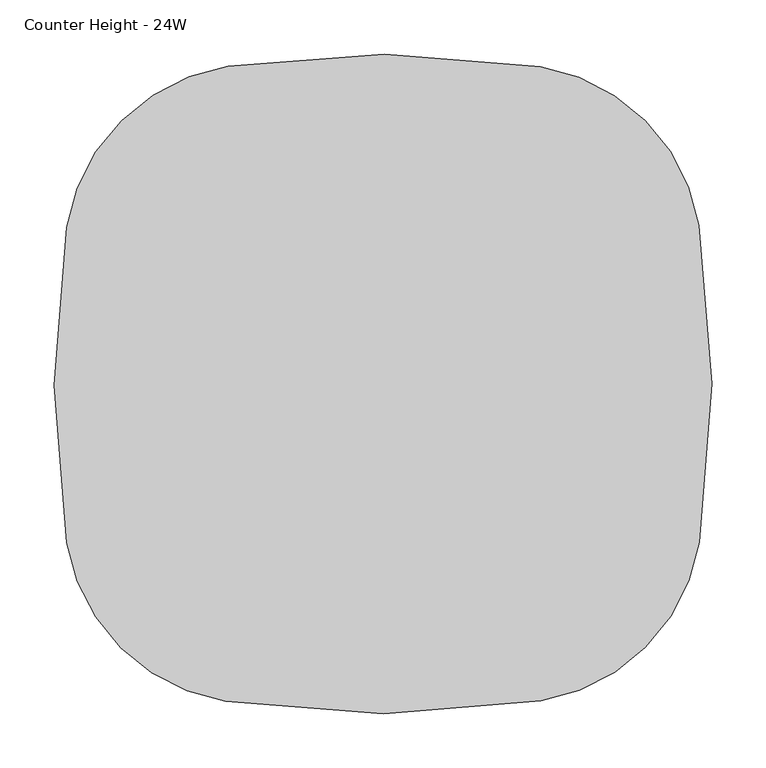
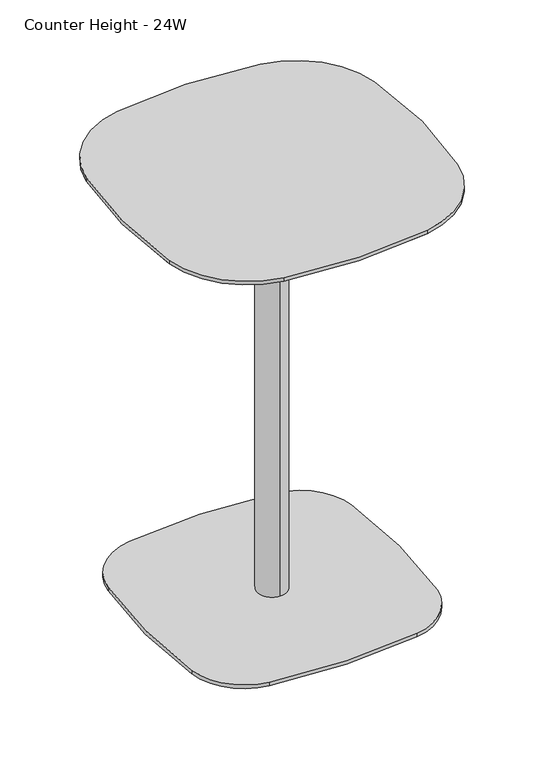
"""IFC4 building model written with IfcOpenShell, lengths in millimetres: furniture geometry, Steelcase Coalesse - Enea Lottus - Table - Cafe : Counter Height - 24W."""

import ifcopenshell
import ifcopenshell.guid

model = None  # the IFC model being written
_history = None  # IfcOwnerHistory: only IFC2X3 demands one
_inside = {}  # id of a spatial element -> (the spatial element, [elements in it])
_under = {}  # id of a project, library or spatial element -> (it, [spatial elements below it])
_declared = {}  # id of a project -> (the project, [libraries it declares])
_typed = {}  # id of a type object -> (the type object, [elements of that type])
_made_of = {}  # id of a material, layer set ... -> (it, [elements and type objects made of it])


def new_model(schema):
    """Start an empty IFC model of exactly this schema.

    Asked for "IFC4X3", IfcOpenShell would pick the latest addendum, in which some entities
    have other attributes; the version numbers below select the first issue.
    IFC2X3 requires an IfcOwnerHistory on every rooted entity: one is made here for all.
    """
    global model, _history
    if schema == "IFC4X3":
        model = ifcopenshell.file(schema_version=(4, 3, 0, 0))
    else:
        model = ifcopenshell.file(schema=schema)
    _inside.clear()
    _under.clear()
    _declared.clear()
    _typed.clear()
    _made_of.clear()
    _history = None
    if model.schema == "IFC2X3":
        org = make("IfcOrganization", Name="unknown")
        user = make(
            "IfcPersonAndOrganization",
            ThePerson=make("IfcPerson", FamilyName="unknown"),
            TheOrganization=org,
        )
        app = make(
            "IfcApplication",
            ApplicationDeveloper=org,
            Version="unknown",
            ApplicationFullName="unknown",
            ApplicationIdentifier="unknown",
        )
        _history = make(
            "IfcOwnerHistory",
            OwningUser=user,
            OwningApplication=app,
            ChangeAction="ADDED",
            CreationDate=0,
        )
    return model


def make(cls, **values):
    """One entity of the class cls with the attributes given. An attribute that is None is left unset."""
    return model.create_entity(
        cls, **{name: value for name, value in values.items() if value is not None}
    )


def rooted(cls, **values):
    """An entity with a GlobalId (a new one), such as an element, a storey or a relation."""
    return make(cls, GlobalId=ifcopenshell.guid.new(), OwnerHistory=_history, **values)


def si_unit(unit_type, name, prefix=None):
    """IfcSIUnit, for example si_unit("LENGTHUNIT", "METRE", prefix="MILLI")."""
    return make("IfcSIUnit", UnitType=unit_type, Prefix=prefix, Name=name)


def assignment(units):
    """IfcUnitAssignment: the units of a project."""
    return None if units is None else make("IfcUnitAssignment", Units=units)


def point(xyz):
    """IfcCartesianPoint."""
    return None if xyz is None else make("IfcCartesianPoint", Coordinates=xyz)


def direction(xyz):
    """IfcDirection."""
    return None if xyz is None else make("IfcDirection", DirectionRatios=xyz)


def frame(location, z_axis=None, x_axis=None):
    """IfcAxis2Placement3D, a coordinate frame: its origin and axes. An axis left out is left unset."""
    return make(
        "IfcAxis2Placement3D",
        Location=point(location),
        Axis=direction(z_axis),
        RefDirection=direction(x_axis),
    )


def frame_2d(location, x_axis=None):
    """IfcAxis2Placement2D, a coordinate frame in the plane: its origin and x axis."""
    return make(
        "IfcAxis2Placement2D", Location=point(location), RefDirection=direction(x_axis)
    )


def origin():
    """The frame at (0, 0, 0) with its axes left unset."""
    return frame((0.0, 0.0, 0.0))


def origin_with_axes():
    """The frame at (0, 0, 0) with the z axis (0, 0, 1) and the x axis (1, 0, 0) written out."""
    return frame((0.0, 0.0, 0.0), z_axis=(0.0, 0.0, 1.0), x_axis=(1.0, 0.0, 0.0))


def place(relative_to, where):
    """IfcLocalPlacement: puts the frame where relative to a parent placement (None: the world)."""
    return make(
        "IfcLocalPlacement", PlacementRelTo=relative_to, RelativePlacement=where
    )


def context(
    kind, dimensions, precision=None, world=None, true_north=None, identifier=None
):
    """IfcGeometricRepresentationContext, for example the 3D "Model" context."""
    return make(
        "IfcGeometricRepresentationContext",
        ContextIdentifier=identifier,
        ContextType=kind,
        CoordinateSpaceDimension=dimensions,
        Precision=precision,
        WorldCoordinateSystem=world,
        TrueNorth=true_north,
    )


def project(units=None, contexts=None):
    """IfcProject with its units and contexts."""
    return rooted(
        "IfcProject",
        Name="project",
        RepresentationContexts=contexts,
        UnitsInContext=assignment(units),
    )


def spatial(cls, under=None, at=None, **own):
    """A site, building, storey or space (cls), placed at a placement, below another one or the project."""
    s = rooted(cls, ObjectPlacement=at, **own)
    if under is not None:
        _under.setdefault(under.id(), (under, []))[1].append(s)
    return s


def polyline(points):
    """IfcPolyline through the points."""
    return make("IfcPolyline", Points=[point(p) for p in points])


def circle_curve(where, radius):
    """IfcCircle in the frame where."""
    return make("IfcCircle", Position=where, Radius=radius)


def trimmed(basis, trim1, trim2, sense, master):
    """IfcTrimmedCurve: the piece of a basis curve between two trims."""
    return make(
        "IfcTrimmedCurve",
        BasisCurve=basis,
        Trim1=trim1,
        Trim2=trim2,
        SenseAgreement=sense,
        MasterRepresentation=master,
    )


def segment(curve, same_sense, transition):
    """IfcCompositeCurveSegment."""
    return make(
        "IfcCompositeCurveSegment",
        Transition=transition,
        SameSense=same_sense,
        ParentCurve=curve,
    )


def composite_curve(segments, self_intersect=None):
    """IfcCompositeCurve: segments joined end to end."""
    return make("IfcCompositeCurve", Segments=segments, SelfIntersect=self_intersect)


def outline(outer, holes=None, kind="AREA"):
    """IfcArbitraryClosedProfileDef: a profile drawn as a closed curve; with holes, ...WithVoids."""
    if holes is None:
        return make("IfcArbitraryClosedProfileDef", ProfileType=kind, OuterCurve=outer)
    return make(
        "IfcArbitraryProfileDefWithVoids",
        ProfileType=kind,
        OuterCurve=outer,
        InnerCurves=holes,
    )


def extrude(swept, where, along, depth):
    """IfcExtrudedAreaSolid: the profile swept, set in the frame where, extruded along a direction by depth."""
    return make(
        "IfcExtrudedAreaSolid",
        SweptArea=swept,
        Position=where,
        ExtrudedDirection=direction(along),
        Depth=depth,
    )


def shape(context_of_items, identifier, shape_type, items):
    """IfcShapeRepresentation: the items that make up one representation, for example the "Body"."""
    return make(
        "IfcShapeRepresentation",
        ContextOfItems=context_of_items,
        RepresentationIdentifier=identifier,
        RepresentationType=shape_type,
        Items=items,
    )


def source(mapping_origin, context_of_items, identifier, shape_type, items):
    """IfcRepresentationMap: a shape defined once, which mapped items show again and again."""
    return make(
        "IfcRepresentationMap",
        MappingOrigin=mapping_origin,
        MappedRepresentation=shape(context_of_items, identifier, shape_type, items),
    )


def transform(
    local_origin,
    x_axis=None,
    y_axis=None,
    z_axis=None,
    scale=None,
    scale2=None,
    scale3=None,
    uniform=True,
):
    """IfcCartesianTransformationOperator3D, or its non-uniform kind. x_axis, y_axis, z_axis: its Axis1, 2, 3."""
    if uniform:
        return make(
            "IfcCartesianTransformationOperator3D",
            Axis1=direction(x_axis),
            Axis2=direction(y_axis),
            LocalOrigin=point(local_origin),
            Scale=scale,
            Axis3=direction(z_axis),
        )
    return make(
        "IfcCartesianTransformationOperator3DnonUniform",
        Axis1=direction(x_axis),
        Axis2=direction(y_axis),
        LocalOrigin=point(local_origin),
        Scale=scale,
        Axis3=direction(z_axis),
        Scale2=scale2,
        Scale3=scale3,
    )


def mapped(mapping_source, mapping_target):
    """IfcMappedItem: shows the shape of a source again, moved by a transform."""
    return make(
        "IfcMappedItem", MappingSource=mapping_source, MappingTarget=mapping_target
    )


def made_of(thing, what):
    """Note that an element or type object is made of a material, layer set ...; save() writes the relation."""
    if what is not None:
        _made_of.setdefault(what.id(), (what, []))[1].append(thing)
    return thing


def element(
    cls,
    number,
    at=None,
    inside=None,
    cuts=None,
    type_object=None,
    material=None,
    context=None,
    identifier="Body",
    shape_type=None,
    held_by="IfcProductDefinitionShape",
    body=None,
    shapes=None,
    **own,
):
    """One element of the class cls, such as IfcWall. Its Tag is "e" and its number.

    at: its placement. inside: the storey or other place that contains it. cuts: it is an
    opening in that element (IfcRelVoidsElement). A single representation is given by context,
    identifier, shape_type and body (its items); several are given by shapes. held_by: the class
    of the entity that holds the representations. save() writes the other relations.
    """
    e = rooted(cls, Tag="e%d" % number, ObjectPlacement=at, **own)
    if body is not None:
        shapes = [shape(context, identifier, shape_type, body)]
    if shapes is not None:
        e.Representation = make(held_by, Representations=shapes)
    if inside is not None:
        _inside.setdefault(inside.id(), (inside, []))[1].append(e)
    if cuts is not None:
        rooted(
            "IfcRelVoidsElement", RelatingBuildingElement=cuts, RelatedOpeningElement=e
        )
    if type_object is not None:
        _typed.setdefault(type_object.id(), (type_object, []))[1].append(e)
    return made_of(e, material)


def aggregate(whole, parts):
    """IfcRelAggregates: a whole, such as a stair, and the parts it consists of."""
    return rooted("IfcRelAggregates", RelatingObject=whole, RelatedObjects=parts)


def save(model, path):
    """Write the relations noted so far, then the file.

    IfcRelAggregates (storeys below a building ...), IfcRelContainedInSpatialStructure (elements
    in a storey), IfcRelDefinesByType, IfcRelAssociatesMaterial and IfcRelDeclares: one each for
    every whole, place, type object, material and project.
    """
    for whole, parts in _under.values():
        aggregate(whole, parts)
    for where, things in _inside.values():
        rooted(
            "IfcRelContainedInSpatialStructure",
            RelatedElements=things,
            RelatingStructure=where,
        )
    for kind, things in _typed.values():
        rooted("IfcRelDefinesByType", RelatedObjects=things, RelatingType=kind)
    for what, things in _made_of.values():
        rooted("IfcRelAssociatesMaterial", RelatedObjects=things, RelatingMaterial=what)
    for by, libraries in _declared.values():
        rooted("IfcRelDeclares", RelatingContext=by, RelatedDefinitions=libraries)
    model.write(path)


def plane_surface(at):
    """IfcPlane: the flat surface through the origin of the frame at, square to its z axis."""
    return make("IfcPlane", Position=at)


def cylinder_surface(at, radius):
    """IfcCylindricalSurface: all points at the distance radius from the z axis of the frame at."""
    return make("IfcCylindricalSurface", Position=at, Radius=radius)


def revolved_surface(curve, axis_point, axis_direction):
    """IfcSurfaceOfRevolution: the curve turned about the line through axis_point along axis_direction."""
    return make(
        "IfcSurfaceOfRevolution",
        SweptCurve=make("IfcArbitraryOpenProfileDef", ProfileType="CURVE", Curve=curve),
        AxisPosition=make("IfcAxis1Placement", Location=point(axis_point), Axis=direction(axis_direction)),
    )


def advanced_brep(points, edges, surfaces, faces):
    """IfcAdvancedBrep: a solid bounded by faces that lie on surfaces and meet in shared edges.

    An edge is (start, end): straight between two places in points (the first is 0);
    or (start, end, curve); or (start, end, curve, False) where it runs against its curve.
    A face is (place in surfaces, loops), or (place, loops, False) where it looks against
    its surface's normal. A loop lists edges by number (the first is 1), with a minus sign
    where the edge is run from its end to its start. The first loop is the outer one.
    """
    corners = [point(p) for p in points]
    vertices = [make("IfcVertexPoint", VertexGeometry=c) for c in corners]
    made = []
    for start, end, *more in edges:
        made.append(
            make(
                "IfcEdgeCurve",
                EdgeStart=vertices[start],
                EdgeEnd=vertices[end],
                EdgeGeometry=more[0] if more else make("IfcPolyline", Points=[corners[start], corners[end]]),
                SameSense=more[1] if len(more) > 1 else True,
            )
        )
    hull = []
    for where, loops, *sense in faces:
        bounds = []
        for j, loop in enumerate(loops):
            ring = [make("IfcOrientedEdge", EdgeElement=made[abs(k) - 1], Orientation=k > 0) for k in loop]
            bounds.append(
                make(
                    "IfcFaceOuterBound" if j == 0 else "IfcFaceBound",
                    Bound=make("IfcEdgeLoop", EdgeList=ring),
                    Orientation=True,
                )
            )
        hull.append(make("IfcAdvancedFace", Bounds=bounds, FaceSurface=surfaces[where], SameSense=sense[0] if sense else True))
    return make("IfcAdvancedBrep", Outer=make("IfcClosedShell", CfsFaces=hull))


def counter_height_24w_2820b80f(model_context):
    return source(origin(), model_context, "Body", "SolidModel", [
        extrude(outline(composite_curve([segment(trimmed(circle_curve(frame_2d((124.5777941, -124.4143905)), 14.5931535), [point((139.1709476, -124.4143905))], [point((109.9846407, -124.4143905))], False, "CARTESIAN"), True, "CONTINUOUS"), segment(trimmed(circle_curve(frame_2d((124.5777941, -124.4143905)), 14.5931535), [point((109.9846407, -124.4143905))], [point((139.1709476, -124.4143905))], False, "CARTESIAN"), True, "CONTINUOUS")], self_intersect=False)), origin_with_axes(), (0.0, 0.0, 1.0), 12.0681503),
        extrude(outline(composite_curve([segment(trimmed(circle_curve(frame_2d((485.0222059, -124.4143905)), 14.5931535), [point((499.6153593, -124.4143905))], [point((470.4290524, -124.4143905))], False, "CARTESIAN"), True, "CONTINUOUS"), segment(trimmed(circle_curve(frame_2d((485.0222059, -124.4143905)), 14.5931535), [point((470.4290524, -124.4143905))], [point((499.6153593, -124.4143905))], False, "CARTESIAN"), True, "CONTINUOUS")], self_intersect=False)), origin_with_axes(), (0.0, 0.0, 1.0), 12.0681503),
        extrude(outline(composite_curve([segment(trimmed(circle_curve(frame_2d((124.5777941, -485.1856095)), 14.5931535), [point((139.1709476, -485.1856095))], [point((109.9846407, -485.1856095))], False, "CARTESIAN"), True, "CONTINUOUS"), segment(trimmed(circle_curve(frame_2d((124.5777941, -485.1856095)), 14.5931535), [point((109.9846407, -485.1856095))], [point((139.1709476, -485.1856095))], False, "CARTESIAN"), True, "CONTINUOUS")], self_intersect=False)), origin_with_axes(), (0.0, 0.0, 1.0), 12.0681503),
        extrude(outline(composite_curve([segment(trimmed(circle_curve(frame_2d((485.0222059, -485.1856095)), 14.5931535), [point((499.6153593, -485.1856095))], [point((470.4290524, -485.1856095))], False, "CARTESIAN"), True, "CONTINUOUS"), segment(trimmed(circle_curve(frame_2d((485.0222059, -485.1856095)), 14.5931535), [point((470.4290524, -485.1856095))], [point((499.6153593, -485.1856095))], False, "CARTESIAN"), True, "CONTINUOUS")], self_intersect=False)), origin_with_axes(), (0.0, 0.0, 1.0), 12.0681503),
        extrude(outline(composite_curve([segment(trimmed(circle_curve(frame_2d((439.7325388, -169.9682383)), 114.3), [point((455.7555748, -56.7968978))], [point((552.9038793, -153.9452024))], False, "CARTESIAN"), True, "CONTINUOUS"), segment(trimmed(circle_curve(frame_2d((-512.58956, -304.8)), 1076.1196212), [point((552.9038793, -153.9452024))], [point((552.9038793, -455.6547976))], False, "CARTESIAN"), True, "CONTINUOUS"), segment(trimmed(circle_curve(frame_2d((439.7325388, -439.6317617)), 114.3), [point((552.9038793, -455.6547976))], [point((455.7555748, -552.8031022))], False, "CARTESIAN"), True, "CONTINUOUS"), segment(trimmed(circle_curve(frame_2d((304.9007771, 512.6903371)), 1076.1196212), [point((455.7555748, -552.8031022))], [point((156.2349074, -553.1107224))], False, "CARTESIAN"), True, "CONTINUOUS"), segment(trimmed(circle_curve(frame_2d((172.3871485, -437.3136286)), 116.9181843), [point((156.2349074, -553.1107224))], [point((56.5900548, -453.4658697))], False, "CARTESIAN"), True, "CONTINUOUS"), segment(trimmed(circle_curve(frame_2d((1122.3911142, -304.8)), 1076.1196212), [point((56.5900548, -453.4658697))], [point((56.1557192, -159.2818861))], False, "CARTESIAN"), True, "CONTINUOUS"), segment(trimmed(circle_curve(frame_2d((175.6975413, -175.5967642)), 120.65), [point((56.1557192, -159.2818861))], [point((159.3826632, -56.054942))], False, "CARTESIAN"), True, "CONTINUOUS"), segment(trimmed(circle_curve(frame_2d((304.9007771, -1122.2903371)), 1076.1196212), [point((159.3826632, -56.054942))], [point((455.7555748, -56.7968978))], False, "CARTESIAN"), True, "CONTINUOUS")], self_intersect=False)), frame((0.0, 0.0, 12.0681503), z_axis=(0.0, 0.0, 1.0), x_axis=(1.0, 0.0, 0.0)), (0.0, 0.0, 1.0), 7.874),
        advanced_brep(
        [(304.8, -334.6613798, 878.0223999), (304.8, -274.9386202, 878.0223999), (304.8, -128.3080839, 898.7439789), (304.8, -481.2919161, 898.7439789), (304.8, -304.8, 878.0223999), (304.8, -481.2919161, 901.6282142), (304.8, -128.3080839, 901.6282142), (304.8, -304.8, 901.6282142)],
        [
            (0, 1, circle_curve(frame((304.8, -304.8, 878.0223999), z_axis=(0.0, 0.0, 1.0), x_axis=(0.0, 1.0, 0.0)), 29.8613798)),
            (1, 2),
            (2, 3, circle_curve(frame((304.8, -304.8, 898.7439789), z_axis=(0.0, 0.0, -1.0), x_axis=(0.0, 1.0, 0.0)), 176.4919161)),
            (3, 0),
            (1, 0, circle_curve(frame((304.8, -304.8, 878.0223999), z_axis=(0.0, 0.0, 1.0), x_axis=(0.0, 1.0, 0.0)), 29.8613798)),
            (3, 2, circle_curve(frame((304.8, -304.8, 898.7439789), z_axis=(0.0, 0.0, -1.0), x_axis=(0.0, 1.0, 0.0)), 176.4919161)),
            (4, 1),
            (0, 4),
            (5, 6, circle_curve(frame((304.8, -304.8, 901.6282142), z_axis=(0.0, 0.0, 1.0), x_axis=(0.0, 1.0, 0.0)), 176.4919161)),
            (6, 7),
            (7, 5),
            (6, 5, circle_curve(frame((304.8, -304.8, 901.6282142), z_axis=(0.0, 0.0, 1.0), x_axis=(0.0, 1.0, 0.0)), 176.4919161)),
            (2, 6),
            (5, 3),
        ],
        [
            revolved_surface(polyline([(304.8, -128.3080839, 898.7439789), (304.8, -274.9386202, 878.0223999)]), (304.8, -304.8, 889.825307), (0.0, 0.0, -1.0)),
            plane_surface(frame((304.8, -304.8, 878.0223999), z_axis=(0.0, 0.0, -1.0), x_axis=(0.0, 1.0, 0.0))),
            plane_surface(frame((304.8, -304.8, 901.6282142), z_axis=(0.0, 0.0, 1.0), x_axis=(0.0, 1.0, 0.0))),
            cylinder_surface(frame((304.8, -304.8, 889.825307), z_axis=(0.0, 0.0, -1.0), x_axis=(0.0, 1.0, 0.0)), 176.4919161),
        ],
        [
            (0, [[1, 2, 3, 4]]),
            (0, [[5, -4, 6, -2]]),
            (1, [[7, -1, 8]]),
            (1, [[-8, -5, -7]]),
            (2, [[9, 10, 11]]),
            (2, [[12, -11, -10]]),
            (3, [[-3, 13, -9, 14]]),
            (3, [[-6, -14, -12, -13]]),
        ],
    ),
        extrude(outline(composite_curve([segment(trimmed(circle_curve(frame_2d((422.2639473, -422.7901965)), 177.8), [point((597.737796, -451.4566999))], [point((451.0251551, -598.2485474))], False, "CARTESIAN"), True, "CONTINUOUS"), segment(trimmed(circle_curve(frame_2d((303.9070693, 299.2484165)), 909.4748658), [point((451.0251551, -598.2485474))], [point((159.0694792, -598.6193933))], False, "CARTESIAN"), True, "CONTINUOUS"), segment(trimmed(circle_curve(frame_2d((187.384856, -423.088543)), 177.8), [point((159.0694792, -598.6193933))], [point((11.9229118, -451.8278218))], False, "CARTESIAN"), True, "CONTINUOUS"), segment(trimmed(circle_curve(frame_2d((906.6999636, -305.270417)), 906.7000856), [point((11.9229118, -451.8278218))], [point((11.7482991, -159.7830861))], False, "CARTESIAN"), True, "CONTINUOUS"), segment(trimmed(circle_curve(frame_2d((189.7726277, -188.7235143)), 180.3613317), [point((11.7482991, -159.7830861))], [point((161.53911, -10.5857068))], False, "CARTESIAN"), True, "CONTINUOUS"), segment(trimmed(circle_curve(frame_2d((303.9070693, -908.8484165)), 909.4748658), [point((161.53911, -10.5857068))], [point((450.8279994, -11.3191569))], False, "CARTESIAN"), True, "CONTINUOUS"), segment(trimmed(circle_curve(frame_2d((422.105335, -186.7838216)), 177.8), [point((450.8279994, -11.3191569))], [point((597.5404936, -157.8814836))], False, "CARTESIAN"), True, "CONTINUOUS"), segment(trimmed(circle_curve(frame_2d((-297.0999636, -305.270417)), 906.7000856), [point((597.5404936, -157.8814836))], [point((597.737796, -451.4566999))], False, "CARTESIAN"), True, "CONTINUOUS")], self_intersect=False)), frame((0.0, 0.0, 906.847009), z_axis=(0.0, 0.0, 1.0), x_axis=(1.0, 0.0, 0.0)), (0.0, 0.0, 1.0), 7.552991),
        advanced_brep(
        [(448.7763805, -23.8523473, 901.6282142), (585.0094108, -159.9459363, 901.6282142), (585.2039497, -449.4090925, 901.6282142), (448.9707831, -585.7158081, 901.6282142), (161.0920061, -586.0814755, 901.6282142), (24.4559078, -449.7750162, 901.6282142), (24.2837409, -161.8209033, 901.6282142), (163.5271508, -23.1291391, 901.6282142), (450.8279994, -11.3191569, 906.847009), (161.53911, -10.5857068, 906.847009), (11.7482991, -159.7830861, 906.847009), (11.9229118, -451.8278218, 906.847009), (159.0694792, -598.6193933, 906.847009), (451.0251551, -598.2485474, 906.847009), (597.737796, -451.4566999, 906.847009), (597.5404936, -157.8814836, 906.847009)],
        [
            (0, 1, circle_curve(frame((422.105335, -186.7838216, 901.6282142), z_axis=(0.0, 0.0, -1.0), x_axis=(0.16154479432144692, 0.9868653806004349, 0.0)), 165.1)),
            (1, 2, circle_curve(frame((-297.0999636, -305.270417, 901.6282142), z_axis=(0.0, 0.0, -1.0), x_axis=(0.9866994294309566, 0.1625553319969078, 0.0)), 894.0000856)),
            (2, 3, circle_curve(frame((422.2639473, -422.7901965, 901.6282142), z_axis=(0.0, 0.0, -1.0), x_axis=(0.986917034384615, -0.16122892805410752, 0.0)), 165.1)),
            (3, 4, circle_curve(frame((303.9070693, 299.2484165, 901.6282142), z_axis=(0.0, 0.0, -1.0), x_axis=(0.16176157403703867, -0.9868298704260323, 0.0)), 896.7748658)),
            (4, 5, circle_curve(frame((187.384856, -423.088543, 901.6282142), z_axis=(0.0, 0.0, -1.0), x_axis=(-0.15925408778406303, -0.9872376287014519, 0.0)), 165.1)),
            (5, 6, circle_curve(frame((906.6999636, -305.270417, 901.6282142), z_axis=(0.0, 0.0, -1.0), x_axis=(-0.9868500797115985, -0.16163823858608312, 0.0)), 894.0000856)),
            (6, 7, circle_curve(frame((189.7726277, -188.7235143, 901.6282142), z_axis=(0.0, 0.0, -1.0), x_axis=(-0.9870426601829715, 0.16045805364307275, 0.0)), 167.6613317)),
            (7, 0, circle_curve(frame((303.9070693, -908.8484165, 901.6282142), z_axis=(0.0, 0.0, -1.0), x_axis=(-0.156538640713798, 0.987671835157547, 0.0)), 896.7748658)),
            (8, 9, circle_curve(frame((303.9070693, -908.8484165, 906.847009), z_axis=(0.0, 0.0, 1.0), x_axis=(-0.156538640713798, 0.987671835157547, 0.0)), 909.4748658)),
            (9, 10, circle_curve(frame((189.7726277, -188.7235143, 906.847009), z_axis=(0.0, 0.0, 1.0), x_axis=(-0.9870426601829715, 0.16045805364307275, 0.0)), 180.3613317)),
            (10, 11, circle_curve(frame((906.6999636, -305.270417, 906.847009), z_axis=(0.0, 0.0, 1.0), x_axis=(-0.9868500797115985, -0.16163823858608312, 0.0)), 906.7000856)),
            (11, 12, circle_curve(frame((187.384856, -423.088543, 906.847009), z_axis=(0.0, 0.0, 1.0), x_axis=(-0.15925408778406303, -0.9872376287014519, 0.0)), 177.8)),
            (12, 13, circle_curve(frame((303.9070693, 299.2484165, 906.847009), z_axis=(0.0, 0.0, 1.0), x_axis=(0.16176157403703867, -0.9868298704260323, 0.0)), 909.4748658)),
            (13, 14, circle_curve(frame((422.2639473, -422.7901965, 906.847009), z_axis=(0.0, 0.0, 1.0), x_axis=(0.986917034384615, -0.16122892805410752, 0.0)), 177.8)),
            (14, 15, circle_curve(frame((-297.0999636, -305.270417, 906.847009), z_axis=(0.0, 0.0, 1.0), x_axis=(0.9866994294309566, 0.1625553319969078, 0.0)), 906.7000856)),
            (15, 8, circle_curve(frame((422.105335, -186.7838216, 906.847009), z_axis=(0.0, 0.0, 1.0), x_axis=(0.16154479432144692, 0.9868653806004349, 0.0)), 177.8)),
            (15, 1),
            (0, 8),
            (14, 2),
            (13, 3),
            (12, 4),
            (11, 5),
            (10, 6),
            (9, 7),
        ],
        [
            plane_surface(frame((305.1649162, -304.9662148, 901.6282142), z_axis=(0.0, 0.0, -1.0), x_axis=(-0.9868653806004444, 0.1615447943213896, 0.0))),
            plane_surface(frame((305.1764055, -304.965237, 906.847009), z_axis=(0.0, 0.0, 1.0), x_axis=(-0.9868653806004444, 0.1615447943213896, 0.0))),
            revolved_surface(polyline([(448.77638052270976, -23.852347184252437, 901.6282142), (450.8279994, -11.319156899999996, 906.847009)]), (422.105335, -186.7838216, 833.7838815), (0.0, 0.0, 1.0)),
            revolved_surface(polyline([(585.0094108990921, -159.94593630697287, 901.6282142), (597.5404936, -157.8814836, 906.847009)]), (-297.0999636, -305.270417, 534.2578978), (0.0, 0.0, 1.0)),
            revolved_surface(polyline([(585.2039497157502, -449.4090925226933, 901.6282142), (597.737796, -451.4566999, 906.847009)]), (422.2639473, -422.7901965, 833.7838815), (0.0, 0.0, 1.0)),
            revolved_surface(polyline([(448.9707831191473, -585.7158081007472, 901.6282142), (451.0251551, -598.2485474, 906.847009)]), (303.9070693, 299.2484165, 533.1176609), (0.0, 0.0, 1.0)),
            revolved_surface(polyline([(161.0920061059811, -586.0814754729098, 901.6282142), (159.0694792, -598.6193933, 906.847009)]), (187.384856, -423.088543, 833.7838815), (0.0, 0.0, 1.0)),
            revolved_surface(polyline([(24.45590775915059, -449.7750161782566, 901.6282142), (11.922911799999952, -451.8278218, 906.847009)]), (906.6999636, -305.270417, 534.2578978), (0.0, 0.0, 1.0)),
            revolved_surface(polyline([(24.283740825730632, -161.8209033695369, 901.6282142), (11.748299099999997, -159.7830861, 906.847009)]), (189.7726277, -188.7235143, 832.7313567), (0.0, 0.0, 1.0)),
            revolved_surface(polyline([(163.52715072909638, -23.12913905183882, 901.6282142), (161.53911, -10.585706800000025, 906.847009)]), (303.9070693, -908.8484165, 533.1176609), (0.0, 0.0, 1.0)),
        ],
        [
            (0, [[1, 2, 3, 4, 5, 6, 7, 8]]),
            (1, [[9, 10, 11, 12, 13, 14, 15, 16]]),
            (2, [[-16, 17, -1, 18]]),
            (3, [[-15, 19, -2, -17]]),
            (4, [[-14, 20, -3, -19]]),
            (5, [[-13, 21, -4, -20]]),
            (6, [[-12, 22, -5, -21]]),
            (7, [[-11, 23, -6, -22]]),
            (8, [[-10, 24, -7, -23]]),
            (9, [[-9, -18, -8, -24]]),
        ],
    ),
        extrude(outline(composite_curve([segment(trimmed(circle_curve(frame_2d((304.8, -304.8)), 29.8613798), [point((304.8, -334.6613798))], [point((304.8, -274.9386202))], False, "CARTESIAN"), True, "CONTINUOUS"), segment(trimmed(circle_curve(frame_2d((304.8, -304.8)), 29.8613798), [point((304.8, -274.9386202))], [point((304.8, -334.6613798))], False, "CARTESIAN"), True, "CONTINUOUS")], self_intersect=False)), frame((0.0, 0.0, 19.9421503), z_axis=(0.0, 0.0, 1.0), x_axis=(1.0, 0.0, 0.0)), (0.0, 0.0, 1.0), 858.0802496),
    ])


if __name__ == "__main__":
    model = new_model("IFC4")
    model_context = context("Model", 3, world=origin())
    ifc_project = project(units=[si_unit("LENGTHUNIT", "METRE", prefix="MILLI")], contexts=[model_context])
    site = spatial("IfcSite", under=ifc_project)
    building = spatial("IfcBuilding", under=site)
    placement = place(None, origin())
    counter_height_24w_shape = counter_height_24w_2820b80f(model_context)
    element("IfcFurniture", 1, ObjectType="Steelcase Coalesse - Enea Lottus - Table - Cafe : Counter Height - 24W", at=placement, inside=building, context=model_context, shape_type="MappedRepresentation", body=[
        mapped(counter_height_24w_shape, transform((0.0, 0.0, 0.0), x_axis=(1.0, 0.0, 0.0), y_axis=(0.0, 1.0, 0.0), z_axis=(0.0, 0.0, 1.0))),
    ])
    save(model, "model.ifc")
